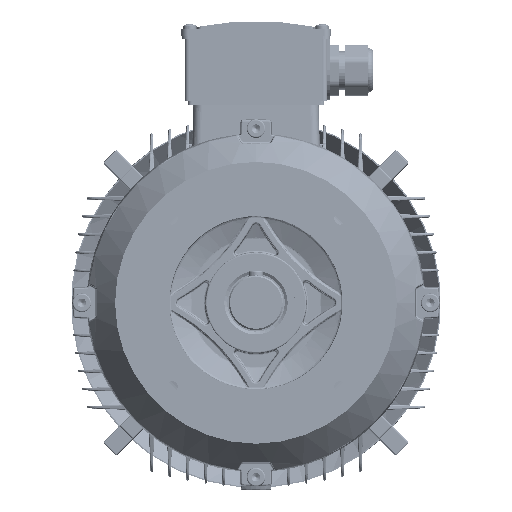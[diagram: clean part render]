
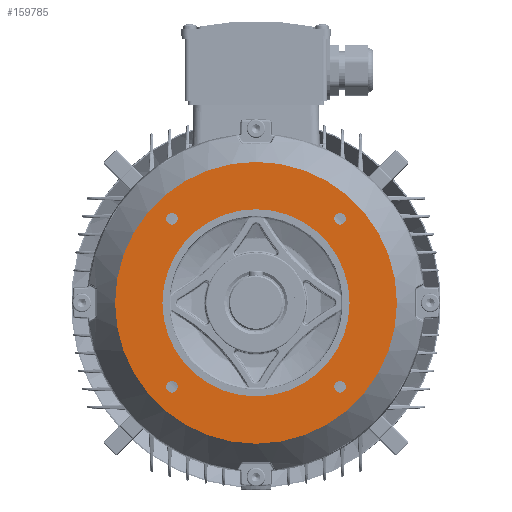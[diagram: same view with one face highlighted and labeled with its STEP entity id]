
A CAD part, left-side view. The second image highlights one B-rep face of the part: STEP entity #159785.
In plain terms, the highlighted planar face has unit normal (-1, 0, 0).
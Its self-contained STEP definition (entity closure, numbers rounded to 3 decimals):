
#1363 = DIRECTION ( 'NONE',  ( -1., 0., 0. ) ) ;
#3844 = FACE_BOUND ( 'NONE', #132840, .T. ) ;
#4472 = DIRECTION ( 'NONE',  ( 0., 0., -1. ) ) ;
#5921 = AXIS2_PLACEMENT_3D ( 'NONE', #143843, #1363, #167764 ) ;
#7350 = CARTESIAN_POINT ( 'NONE',  ( -292.908, -159.17, -54.324 ) ) ;
#7420 = DIRECTION ( 'NONE',  ( 0., 0., -1. ) ) ;
#11037 = CARTESIAN_POINT ( 'NONE',  ( -292.908, -217.506, 0. ) ) ;
#11255 = FACE_BOUND ( 'NONE', #14154, .T. ) ;
#12044 = CARTESIAN_POINT ( 'NONE',  ( -292.908, -275.842, 58.336 ) ) ;
#12532 = CARTESIAN_POINT ( 'NONE',  ( -292.908, -275.842, -54.324 ) ) ;
#14096 = EDGE_CURVE ( 'NONE', #106806, #115580, #103333, .T. ) ;
#14154 = EDGE_LOOP ( 'NONE', ( #80462, #235766 ) ) ;
#14791 = VERTEX_POINT ( 'NONE', #145862 ) ;
#15323 = EDGE_CURVE ( 'NONE', #278670, #91633, #50834, .T. ) ;
#20728 = CIRCLE ( 'NONE', #70623, 4.012 ) ;
#23491 = CARTESIAN_POINT ( 'NONE',  ( -292.908, -275.842, 54.324 ) ) ;
#25637 = CARTESIAN_POINT ( 'NONE',  ( -292.908, -217.506, 97.867 ) ) ;
#28312 = ORIENTED_EDGE ( 'NONE', *, *, #103915, .T. ) ;
#33980 = CARTESIAN_POINT ( 'NONE',  ( -292.908, -275.842, 62.348 ) ) ;
#34889 = CARTESIAN_POINT ( 'NONE',  ( -292.908, -159.17, 62.348 ) ) ;
#34971 = DIRECTION ( 'NONE',  ( 0., 0., -1. ) ) ;
#35982 = DIRECTION ( 'NONE',  ( 0., 0., -1. ) ) ;
#37284 = AXIS2_PLACEMENT_3D ( 'NONE', #101765, #268040, #125681 ) ;
#37572 = CARTESIAN_POINT ( 'NONE',  ( -292.908, -159.17, 54.324 ) ) ;
#45186 = DIRECTION ( 'NONE',  ( -1., 0., 0. ) ) ;
#50834 = CIRCLE ( 'NONE', #201296, 4.012 ) ;
#52141 = CIRCLE ( 'NONE', #285703, 97.867 ) ;
#52322 = AXIS2_PLACEMENT_3D ( 'NONE', #60233, #226535, #84096 ) ;
#53189 = CARTESIAN_POINT ( 'NONE',  ( -292.908, -275.842, -58.336 ) ) ;
#57091 = ORIENTED_EDGE ( 'NONE', *, *, #260291, .F. ) ;
#58105 = EDGE_LOOP ( 'NONE', ( #184504, #166596 ) ) ;
#59650 = FACE_BOUND ( 'NONE', #125052, .T. ) ;
#60233 = CARTESIAN_POINT ( 'NONE',  ( -292.908, -217.506, 0. ) ) ;
#60571 = CARTESIAN_POINT ( 'NONE',  ( -292.908, -275.842, 58.336 ) ) ;
#61390 = VERTEX_POINT ( 'NONE', #34889 ) ;
#61731 = DIRECTION ( 'NONE',  ( 1., 0., 0. ) ) ;
#62643 = EDGE_CURVE ( 'NONE', #128976, #246219, #262905, .T. ) ;
#70623 = AXIS2_PLACEMENT_3D ( 'NONE', #289318, #146972, #4472 ) ;
#71987 = ORIENTED_EDGE ( 'NONE', *, *, #15323, .T. ) ;
#73968 = CIRCLE ( 'NONE', #182124, 4.012 ) ;
#77111 = DIRECTION ( 'NONE',  ( 0., 0., -1. ) ) ;
#79771 = EDGE_CURVE ( 'NONE', #61390, #223460, #206669, .T. ) ;
#80462 = ORIENTED_EDGE ( 'NONE', *, *, #142464, .T. ) ;
#84063 = EDGE_LOOP ( 'NONE', ( #191947, #57091 ) ) ;
#84096 = DIRECTION ( 'NONE',  ( 0., 0., -1. ) ) ;
#84441 = DIRECTION ( 'NONE',  ( 0., 0., -1. ) ) ;
#86948 = EDGE_CURVE ( 'NONE', #115580, #106806, #20728, .T. ) ;
#91633 = VERTEX_POINT ( 'NONE', #23491 ) ;
#99372 = VERTEX_POINT ( 'NONE', #179887 ) ;
#101765 = CARTESIAN_POINT ( 'NONE',  ( -292.908, -159.17, 58.336 ) ) ;
#103333 = CIRCLE ( 'NONE', #141109, 4.012 ) ;
#103915 = EDGE_CURVE ( 'NONE', #14791, #118932, #305474, .T. ) ;
#104401 = AXIS2_PLACEMENT_3D ( 'NONE', #254235, #111852, #278089 ) ;
#106806 = VERTEX_POINT ( 'NONE', #12532 ) ;
#107888 = EDGE_CURVE ( 'NONE', #113732, #99372, #271979, .T. ) ;
#110662 = EDGE_CURVE ( 'NONE', #223460, #61390, #73968, .T. ) ;
#111852 = DIRECTION ( 'NONE',  ( -1., 0., 0. ) ) ;
#113732 = VERTEX_POINT ( 'NONE', #181317 ) ;
#115580 = VERTEX_POINT ( 'NONE', #207411 ) ;
#118932 = VERTEX_POINT ( 'NONE', #25637 ) ;
#119383 = DIRECTION ( 'NONE',  ( 1., 0., 0. ) ) ;
#122885 = FACE_BOUND ( 'NONE', #58105, .T. ) ;
#125052 = EDGE_LOOP ( 'NONE', ( #165081, #71987 ) ) ;
#125681 = DIRECTION ( 'NONE',  ( 0., 0., -1. ) ) ;
#128976 = VERTEX_POINT ( 'NONE', #139144 ) ;
#132840 = EDGE_LOOP ( 'NONE', ( #260853, #172467 ) ) ;
#139144 = CARTESIAN_POINT ( 'NONE',  ( -292.908, -159.17, -62.348 ) ) ;
#141109 = AXIS2_PLACEMENT_3D ( 'NONE', #53189, #219557, #77111 ) ;
#142464 = EDGE_CURVE ( 'NONE', #99372, #113732, #198596, .T. ) ;
#143843 = CARTESIAN_POINT ( 'NONE',  ( -292.908, -217.506, 0. ) ) ;
#145719 = CIRCLE ( 'NONE', #154307, 4.012 ) ;
#145862 = CARTESIAN_POINT ( 'NONE',  ( -292.908, -217.506, -97.867 ) ) ;
#146972 = DIRECTION ( 'NONE',  ( 1., 0., 0. ) ) ;
#149958 = DIRECTION ( 'NONE',  ( -1., 0., 0. ) ) ;
#154307 = AXIS2_PLACEMENT_3D ( 'NONE', #60571, #226881, #84441 ) ;
#159785 = ADVANCED_FACE ( 'NONE', ( #3844, #122885, #11255, #186205, #59650, #305185 ), #182557, .T. ) ;
#165081 = ORIENTED_EDGE ( 'NONE', *, *, #218268, .T. ) ;
#166596 = ORIENTED_EDGE ( 'NONE', *, *, #79771, .T. ) ;
#167764 = DIRECTION ( 'NONE',  ( 0., 0., -1. ) ) ;
#172467 = ORIENTED_EDGE ( 'NONE', *, *, #14096, .T. ) ;
#177462 = DIRECTION ( 'NONE',  ( -1., 0., 0. ) ) ;
#178459 = DIRECTION ( 'NONE',  ( 1., 0., 0. ) ) ;
#179887 = CARTESIAN_POINT ( 'NONE',  ( -292.908, -217.506, -65. ) ) ;
#181317 = CARTESIAN_POINT ( 'NONE',  ( -292.908, -217.506, 65. ) ) ;
#182124 = AXIS2_PLACEMENT_3D ( 'NONE', #261716, #119383, #285684 ) ;
#182557 = PLANE ( 'NONE',  #104401 ) ;
#184504 = ORIENTED_EDGE ( 'NONE', *, *, #110662, .T. ) ;
#185086 = EDGE_LOOP ( 'NONE', ( #28312, #304453 ) ) ;
#186205 = FACE_BOUND ( 'NONE', #84063, .T. ) ;
#187710 = CARTESIAN_POINT ( 'NONE',  ( -292.908, -159.17, -58.336 ) ) ;
#189607 = EDGE_CURVE ( 'NONE', #118932, #14791, #52141, .T. ) ;
#191947 = ORIENTED_EDGE ( 'NONE', *, *, #62643, .F. ) ;
#198596 = CIRCLE ( 'NONE', #52322, 65. ) ;
#201296 = AXIS2_PLACEMENT_3D ( 'NONE', #12044, #178459, #35982 ) ;
#204135 = CARTESIAN_POINT ( 'NONE',  ( -292.908, -217.506, 0. ) ) ;
#206669 = CIRCLE ( 'NONE', #37284, 4.012 ) ;
#207411 = CARTESIAN_POINT ( 'NONE',  ( -292.908, -275.842, -62.348 ) ) ;
#211533 = DIRECTION ( 'NONE',  ( 0., 0., -1. ) ) ;
#218268 = EDGE_CURVE ( 'NONE', #91633, #278670, #145719, .T. ) ;
#219557 = DIRECTION ( 'NONE',  ( 1., 0., 0. ) ) ;
#223460 = VERTEX_POINT ( 'NONE', #37572 ) ;
#226535 = DIRECTION ( 'NONE',  ( 1., 0., 0. ) ) ;
#226881 = DIRECTION ( 'NONE',  ( 1., 0., 0. ) ) ;
#228048 = DIRECTION ( 'NONE',  ( 0., 0., -1. ) ) ;
#235766 = ORIENTED_EDGE ( 'NONE', *, *, #107888, .T. ) ;
#236181 = AXIS2_PLACEMENT_3D ( 'NONE', #187710, #45186, #211533 ) ;
#246219 = VERTEX_POINT ( 'NONE', #7350 ) ;
#254235 = CARTESIAN_POINT ( 'NONE',  ( -292.908, -316.548, -99.042 ) ) ;
#259528 = AXIS2_PLACEMENT_3D ( 'NONE', #204135, #61731, #228048 ) ;
#260291 = EDGE_CURVE ( 'NONE', #246219, #128976, #301448, .T. ) ;
#260853 = ORIENTED_EDGE ( 'NONE', *, *, #86948, .T. ) ;
#261716 = CARTESIAN_POINT ( 'NONE',  ( -292.908, -159.17, 58.336 ) ) ;
#262857 = AXIS2_PLACEMENT_3D ( 'NONE', #292293, #149958, #7420 ) ;
#262905 = CIRCLE ( 'NONE', #236181, 4.012 ) ;
#268040 = DIRECTION ( 'NONE',  ( 1., 0., 0. ) ) ;
#271979 = CIRCLE ( 'NONE', #259528, 65. ) ;
#278089 = DIRECTION ( 'NONE',  ( 0., 0., 1. ) ) ;
#278670 = VERTEX_POINT ( 'NONE', #33980 ) ;
#285684 = DIRECTION ( 'NONE',  ( 0., 0., -1. ) ) ;
#285703 = AXIS2_PLACEMENT_3D ( 'NONE', #11037, #177462, #34971 ) ;
#289318 = CARTESIAN_POINT ( 'NONE',  ( -292.908, -275.842, -58.336 ) ) ;
#292293 = CARTESIAN_POINT ( 'NONE',  ( -292.908, -159.17, -58.336 ) ) ;
#301448 = CIRCLE ( 'NONE', #262857, 4.012 ) ;
#304453 = ORIENTED_EDGE ( 'NONE', *, *, #189607, .T. ) ;
#305185 = FACE_OUTER_BOUND ( 'NONE', #185086, .T. ) ;
#305474 = CIRCLE ( 'NONE', #5921, 97.867 ) ;
